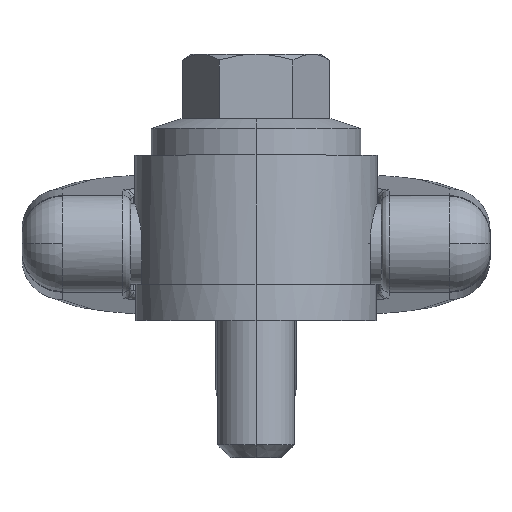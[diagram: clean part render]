
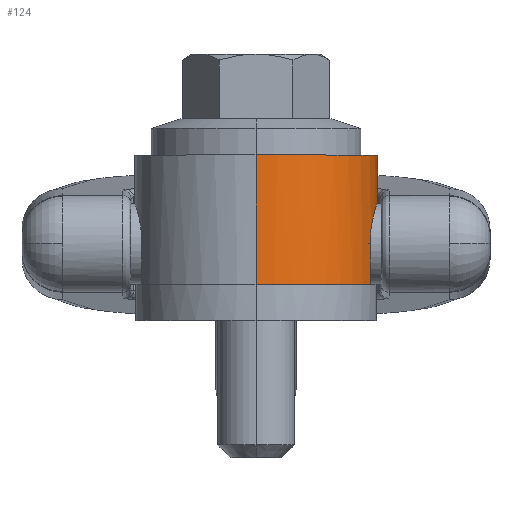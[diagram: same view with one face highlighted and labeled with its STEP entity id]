
A CAD part, top view. The second image highlights one B-rep face of the part: STEP entity #124.
In plain terms, the highlighted cylindrical face has radius 15 mm (diameter 30 mm), a partial arc.
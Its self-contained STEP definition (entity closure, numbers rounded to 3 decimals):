
#41 = ORIENTED_EDGE ( 'NONE', *, *, #103, .T. ) ;
#45 = ORIENTED_EDGE ( 'NONE', *, *, #106, .F. ) ;
#47 = VERTEX_POINT ( 'NONE', #645 ) ;
#48 = VERTEX_POINT ( 'NONE', #644 ) ;
#50 = VERTEX_POINT ( 'NONE', #639 ) ;
#54 = VERTEX_POINT ( 'NONE', #632 ) ;
#60 = VERTEX_POINT ( 'NONE', #677 ) ;
#74 = EDGE_LOOP ( 'NONE', ( #120, #115, #45, #41, #162, #133, #130, #128 ) ) ;
#98 = VERTEX_POINT ( 'NONE', #723 ) ;
#103 = EDGE_CURVE ( 'NONE', #48, #98, #715, .T. ) ;
#106 = EDGE_CURVE ( 'NONE', #48, #47, #775, .T. ) ;
#115 = ORIENTED_EDGE ( 'NONE', *, *, #119, .T. ) ;
#119 = EDGE_CURVE ( 'NONE', #50, #47, #756, .T. ) ;
#120 = ORIENTED_EDGE ( 'NONE', *, *, #121, .F. ) ;
#121 = EDGE_CURVE ( 'NONE', #50, #60, #752, .T. ) ;
#124 = ADVANCED_FACE ( 'NONE', ( #799 ), #793, .T. ) ;
#125 = EDGE_CURVE ( 'NONE', #60, #127, #788, .T. ) ;
#127 = VERTEX_POINT ( 'NONE', #781 ) ;
#128 = ORIENTED_EDGE ( 'NONE', *, *, #125, .F. ) ;
#129 = EDGE_CURVE ( 'NONE', #127, #54, #777, .T. ) ;
#130 = ORIENTED_EDGE ( 'NONE', *, *, #129, .F. ) ;
#131 = EDGE_CURVE ( 'NONE', #132, #54, #817, .T. ) ;
#132 = VERTEX_POINT ( 'NONE', #813 ) ;
#133 = ORIENTED_EDGE ( 'NONE', *, *, #131, .T. ) ;
#159 = EDGE_CURVE ( 'NONE', #98, #132, #899, .T. ) ;
#162 = ORIENTED_EDGE ( 'NONE', *, *, #159, .T. ) ;
#632 = CARTESIAN_POINT ( 'NONE',  ( 14.142, 4.5, -5. ) ) ;
#639 = CARTESIAN_POINT ( 'NONE',  ( 0., 20.5, 15. ) ) ;
#644 = CARTESIAN_POINT ( 'NONE',  ( 14.142, 4.5, 5. ) ) ;
#645 = CARTESIAN_POINT ( 'NONE',  ( 0., 4.5, 15. ) ) ;
#677 = CARTESIAN_POINT ( 'NONE',  ( 0., 20.5, -15. ) ) ;
#715 = LINE ( 'NONE', #5028, #5423 ) ;
#723 = CARTESIAN_POINT ( 'NONE',  ( 14.142, 9.5, 5. ) ) ;
#748 = DIRECTION ( 'NONE',  ( 0., 0., 1. ) ) ;
#749 = DIRECTION ( 'NONE',  ( 0., 1., 0. ) ) ;
#750 = CARTESIAN_POINT ( 'NONE',  ( 0., 20.5, 0. ) ) ;
#751 = AXIS2_PLACEMENT_3D ( 'NONE', #750, #749, #748 ) ;
#752 = CIRCLE ( 'NONE', #751, 15. ) ;
#753 = DIRECTION ( 'NONE',  ( 0., -1., 0. ) ) ;
#754 = VECTOR ( 'NONE', #753, 1000. ) ;
#755 = CARTESIAN_POINT ( 'NONE',  ( 0., 33., 15. ) ) ;
#756 = LINE ( 'NONE', #755, #754 ) ;
#771 = DIRECTION ( 'NONE',  ( 0., 0., -1. ) ) ;
#772 = DIRECTION ( 'NONE',  ( 0., -1., 0. ) ) ;
#773 = CARTESIAN_POINT ( 'NONE',  ( 0., 4.5, 0. ) ) ;
#774 = AXIS2_PLACEMENT_3D ( 'NONE', #773, #772, #771 ) ;
#775 = CIRCLE ( 'NONE', #774, 15. ) ;
#777 = CIRCLE ( 'NONE', #821, 15. ) ;
#781 = CARTESIAN_POINT ( 'NONE',  ( 0., 4.5, -15. ) ) ;
#785 = DIRECTION ( 'NONE',  ( 0., -1., 0. ) ) ;
#786 = VECTOR ( 'NONE', #785, 1000. ) ;
#787 = CARTESIAN_POINT ( 'NONE',  ( 0., 33., -15. ) ) ;
#788 = LINE ( 'NONE', #787, #786 ) ;
#789 = DIRECTION ( 'NONE',  ( 0., 0., -1. ) ) ;
#790 = DIRECTION ( 'NONE',  ( 0., -1., 0. ) ) ;
#791 = AXIS2_PLACEMENT_3D ( 'NONE', #792, #790, #789 ) ;
#792 = CARTESIAN_POINT ( 'NONE',  ( 0., 33., 0. ) ) ;
#793 = CYLINDRICAL_SURFACE ( 'NONE', #791, 15. ) ;
#799 = FACE_OUTER_BOUND ( 'NONE', #74, .T. ) ;
#813 = CARTESIAN_POINT ( 'NONE',  ( 14.142, 9.5, -5. ) ) ;
#814 = DIRECTION ( 'NONE',  ( 0., -1., 0. ) ) ;
#815 = VECTOR ( 'NONE', #814, 1000. ) ;
#816 = CARTESIAN_POINT ( 'NONE',  ( 14.142, 33., -5. ) ) ;
#817 = LINE ( 'NONE', #816, #815 ) ;
#818 = DIRECTION ( 'NONE',  ( 0., 0., -1. ) ) ;
#819 = DIRECTION ( 'NONE',  ( 0., -1., 0. ) ) ;
#820 = CARTESIAN_POINT ( 'NONE',  ( 0., 4.5, 0. ) ) ;
#821 = AXIS2_PLACEMENT_3D ( 'NONE', #820, #819, #818 ) ;
#863 = CARTESIAN_POINT ( 'NONE',  ( 14.142, 9.5, -5. ) ) ;
#864 = CARTESIAN_POINT ( 'NONE',  ( 14.142, 9.833, -5. ) ) ;
#865 = CARTESIAN_POINT ( 'NONE',  ( 14.154, 10.165, -4.967 ) ) ;
#866 = CARTESIAN_POINT ( 'NONE',  ( 14.199, 10.812, -4.836 ) ) ;
#867 = CARTESIAN_POINT ( 'NONE',  ( 14.232, 11.124, -4.74 ) ) ;
#868 = CARTESIAN_POINT ( 'NONE',  ( 14.313, 11.725, -4.489 ) ) ;
#869 = CARTESIAN_POINT ( 'NONE',  ( 14.362, 12.017, -4.332 ) ) ;
#870 = CARTESIAN_POINT ( 'NONE',  ( 14.466, 12.557, -3.97 ) ) ;
#871 = CARTESIAN_POINT ( 'NONE',  ( 14.522, 12.806, -3.765 ) ) ;
#872 = CARTESIAN_POINT ( 'NONE',  ( 14.633, 13.266, -3.305 ) ) ;
#873 = CARTESIAN_POINT ( 'NONE',  ( 14.689, 13.475, -3.05 ) ) ;
#874 = CARTESIAN_POINT ( 'NONE',  ( 14.791, 13.836, -2.511 ) ) ;
#875 = CARTESIAN_POINT ( 'NONE',  ( 14.838, 13.991, -2.222 ) ) ;
#876 = CARTESIAN_POINT ( 'NONE',  ( 14.916, 14.244, -1.614 ) ) ;
#877 = CARTESIAN_POINT ( 'NONE',  ( 14.947, 14.339, -1.301 ) ) ;
#878 = CARTESIAN_POINT ( 'NONE',  ( 14.989, 14.467, -0.657 ) ) ;
#879 = CARTESIAN_POINT ( 'NONE',  ( 15., 14.5, -0.323 ) ) ;
#880 = CARTESIAN_POINT ( 'NONE',  ( 15., 14.5, 0.334 ) ) ;
#881 = CARTESIAN_POINT ( 'NONE',  ( 14.989, 14.467, 0.66 ) ) ;
#882 = CARTESIAN_POINT ( 'NONE',  ( 14.957, 14.37, 1.145 ) ) ;
#883 = CARTESIAN_POINT ( 'NONE',  ( 14.944, 14.329, 1.306 ) ) ;
#884 = CARTESIAN_POINT ( 'NONE',  ( 14.913, 14.233, 1.621 ) ) ;
#885 = CARTESIAN_POINT ( 'NONE',  ( 14.895, 14.177, 1.774 ) ) ;
#886 = CARTESIAN_POINT ( 'NONE',  ( 14.837, 13.99, 2.225 ) ) ;
#887 = CARTESIAN_POINT ( 'NONE',  ( 14.791, 13.836, 2.512 ) ) ;
#888 = CARTESIAN_POINT ( 'NONE',  ( 14.688, 13.47, 3.057 ) ) ;
#889 = CARTESIAN_POINT ( 'NONE',  ( 14.633, 13.264, 3.307 ) ) ;
#890 = CARTESIAN_POINT ( 'NONE',  ( 14.522, 12.806, 3.765 ) ) ;
#891 = CARTESIAN_POINT ( 'NONE',  ( 14.465, 12.552, 3.974 ) ) ;
#892 = CARTESIAN_POINT ( 'NONE',  ( 14.361, 12.01, 4.336 ) ) ;
#893 = CARTESIAN_POINT ( 'NONE',  ( 14.313, 11.724, 4.49 ) ) ;
#894 = CARTESIAN_POINT ( 'NONE',  ( 14.232, 11.12, 4.741 ) ) ;
#895 = CARTESIAN_POINT ( 'NONE',  ( 14.198, 10.802, 4.839 ) ) ;
#896 = CARTESIAN_POINT ( 'NONE',  ( 14.154, 10.16, 4.967 ) ) ;
#897 = CARTESIAN_POINT ( 'NONE',  ( 14.142, 9.833, 5. ) ) ;
#898 = CARTESIAN_POINT ( 'NONE',  ( 14.142, 9.5, 5. ) ) ;
#899 = B_SPLINE_CURVE_WITH_KNOTS ( 'NONE', 3,
 ( #898, #897, #896, #895, #894, #893, #892, #891, #890, #889, #888, #887, #886, #885, #884, #883, #882, #881, #880, #879, #878, #877, #876, #875, #874, #873, #872, #871, #870, #869, #868, #867, #866, #865, #864, #863 ),
 .UNSPECIFIED., .F., .F.,
 ( 4, 2, 2, 2, 2, 2, 2, 2, 2, 2, 2, 2, 2, 2, 2, 2, 2, 4 ),
 ( 0., 0.001, 0.002, 0.003, 0.004, 0.005, 0.006, 0.006, 0.007, 0.008, 0.009, 0.01, 0.011, 0.012, 0.013, 0.014, 0.015, 0.016 ),
 .UNSPECIFIED. ) ;
#5028 = CARTESIAN_POINT ( 'NONE',  ( 14.142, 33., 5. ) ) ;
#5423 = VECTOR ( 'NONE', #5424, 1000. ) ;
#5424 = DIRECTION ( 'NONE',  ( 0., 1., 0. ) ) ;
